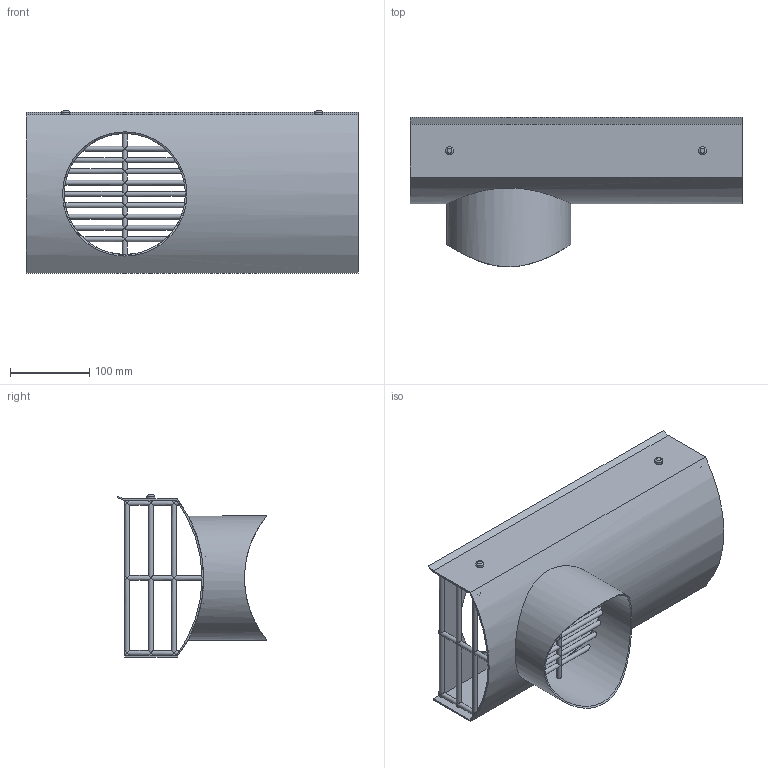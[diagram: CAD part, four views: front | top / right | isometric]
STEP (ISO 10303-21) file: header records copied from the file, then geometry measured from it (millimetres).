
FILE_DESCRIPTION(/* description */ (''),/* implementation_level */ '2;1');
FILE_NAME(/* name */ 'Z:\Output\IP-FKB_125-02689-002.stp',/* time_stamp */ '2017-07-11T11:40:52+02:00',/* author */ ('engineering1'),/* organization */ (''),/* preprocessor_version */ 'ST-DEVELOPER v16.5',/* originating_system */ 'Autodesk Inventor 2017',/* authorisation */ '');
FILE_SCHEMA (('AUTOMOTIVE_DESIGN { 1 0 10303 214 3 1 1 }'));
Length unit declared in the file: millimetre
Products named in the file (1): FKB-1
Bounding box: 420 x 189.4 x 205 mm (x, y, z)
Volume: 494121.2 mm3; surface area: 467091.4 mm2
Topology: 2 solids, 2 shells, 148 faces, 419 edges, 207 vertices
Faces by surface type: cylinder 115, plane 31, torus 2
Full cylindrical faces by diameter (mm): 6.28 x58, 10 x2, 153 x1, 157 x4
Entity records: 5537 total; most frequent: CARTESIAN_POINT 1980, DIRECTION 775, ORIENTED_EDGE 712, AXIS2_PLACEMENT_3D 351, EDGE_CURVE 341, EDGE_LOOP 225, VERTEX_POINT 184, FACE_OUTER_BOUND 148
